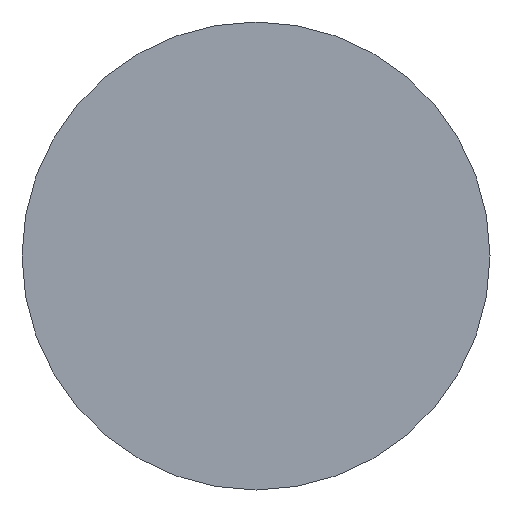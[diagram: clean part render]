
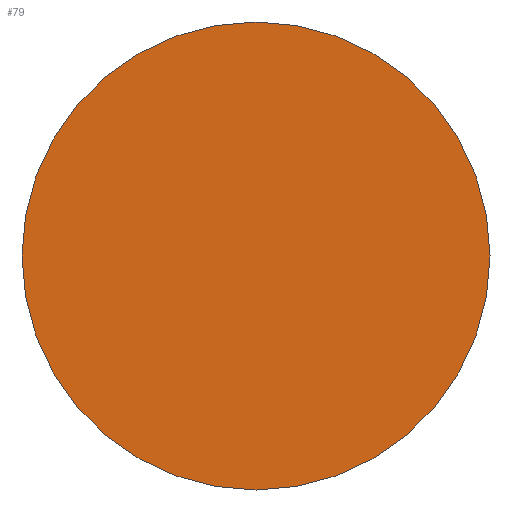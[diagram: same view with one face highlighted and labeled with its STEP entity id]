
A CAD part, front view. The second image highlights one B-rep face of the part: STEP entity #79.
In plain terms, the highlighted planar face has unit normal (0, -1, 0).
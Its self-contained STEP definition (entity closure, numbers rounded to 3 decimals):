
#5 = VERTEX_POINT ( 'NONE', #180 ) ;
#18 = CIRCLE ( 'NONE', #124, 6.5 ) ;
#25 = DIRECTION ( 'NONE',  ( 0., 1., 0. ) ) ;
#34 = AXIS2_PLACEMENT_3D ( 'NONE', #186, #239, #163 ) ;
#43 = CARTESIAN_POINT ( 'NONE',  ( 0., 0., -6.5 ) ) ;
#64 = PLANE ( 'NONE',  #34 ) ;
#68 = DIRECTION ( 'NONE',  ( 0., 0., 1. ) ) ;
#75 = CIRCLE ( 'NONE', #160, 6.5 ) ;
#79 = ADVANCED_FACE ( 'NONE', ( #176 ), #64, .F. ) ;
#86 = DIRECTION ( 'NONE',  ( 0., 1., 0. ) ) ;
#95 = ORIENTED_EDGE ( 'NONE', *, *, #217, .F. ) ;
#124 = AXIS2_PLACEMENT_3D ( 'NONE', #241, #25, #208 ) ;
#128 = EDGE_LOOP ( 'NONE', ( #95, #225 ) ) ;
#160 = AXIS2_PLACEMENT_3D ( 'NONE', #212, #86, #68 ) ;
#163 = DIRECTION ( 'NONE',  ( 0., 0., 1. ) ) ;
#176 = FACE_OUTER_BOUND ( 'NONE', #128, .T. ) ;
#180 = CARTESIAN_POINT ( 'NONE',  ( 0., 0., 6.5 ) ) ;
#186 = CARTESIAN_POINT ( 'NONE',  ( 0., 0., 0. ) ) ;
#208 = DIRECTION ( 'NONE',  ( 0., 0., 1. ) ) ;
#212 = CARTESIAN_POINT ( 'NONE',  ( 0., 0., 0. ) ) ;
#217 = EDGE_CURVE ( 'NONE', #232, #5, #18, .T. ) ;
#225 = ORIENTED_EDGE ( 'NONE', *, *, #248, .F. ) ;
#232 = VERTEX_POINT ( 'NONE', #43 ) ;
#239 = DIRECTION ( 'NONE',  ( 0., 1., 0. ) ) ;
#241 = CARTESIAN_POINT ( 'NONE',  ( 0., 0., 0. ) ) ;
#248 = EDGE_CURVE ( 'NONE', #5, #232, #75, .T. ) ;
